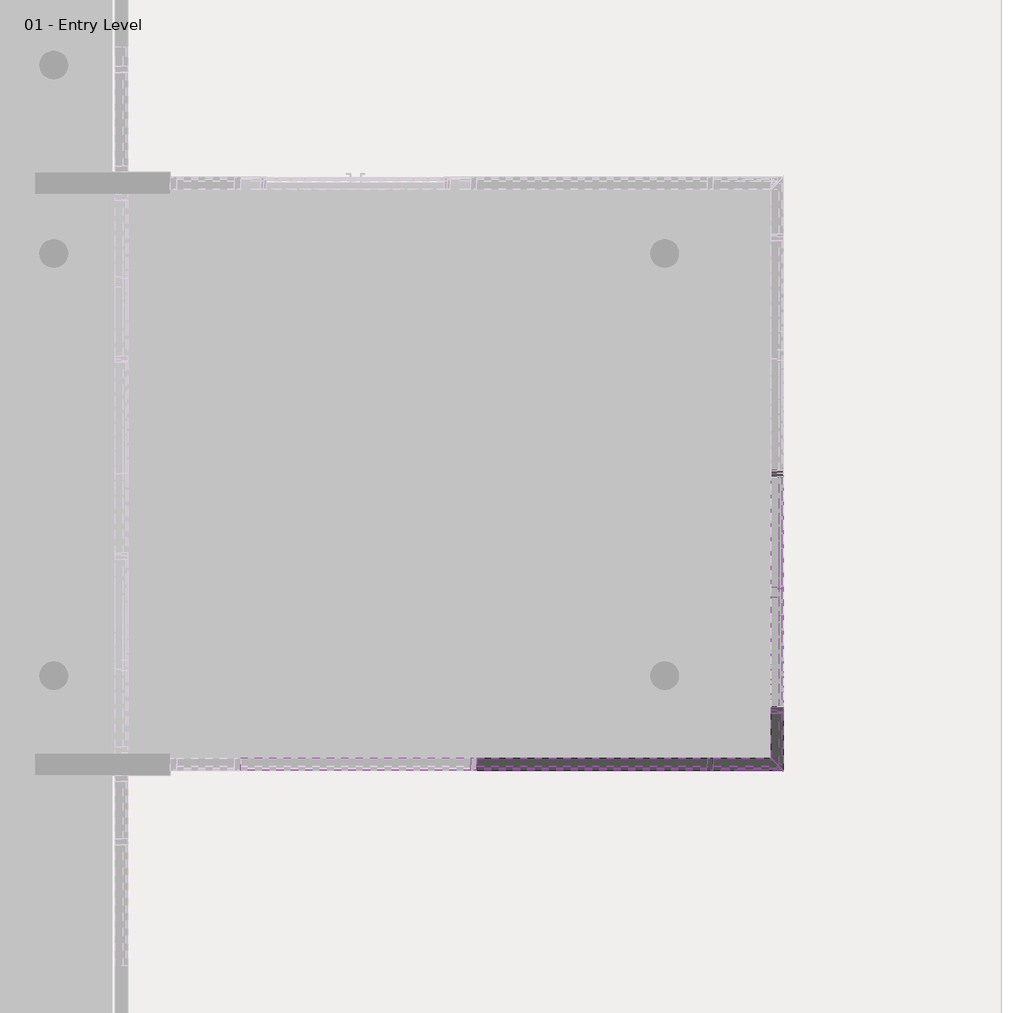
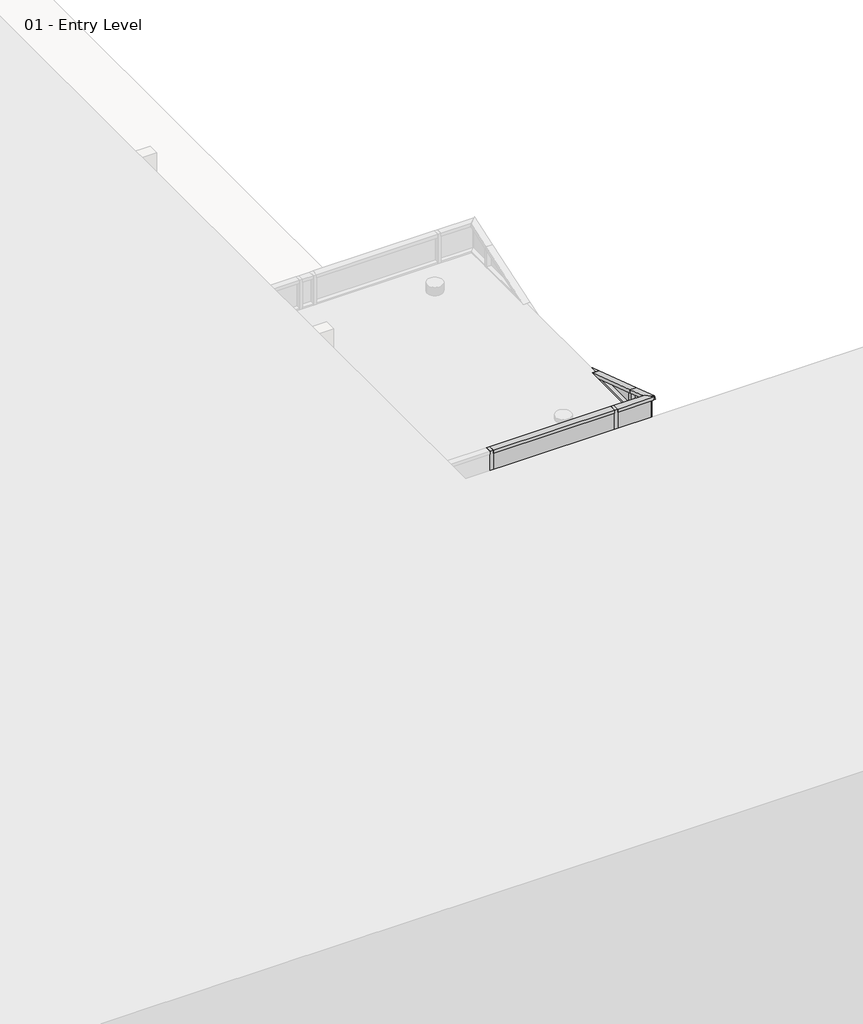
# One storey, part 14 of 35: 79 members, 48 plates.
"""IFC4 building model written with IfcOpenShell, lengths in millimetres."""

from ifc_helpers import new_model, si_unit, origin, place, context, project, spatial, transform, mapped, element, save
from components import member_6e77e263, member_b2bde9e6, member_89bfb2f9, member_9ea90918, member_7a68eee0, member_f22891ba, member_f7040936, member_7bb0cd3e, member_fce4fd76, member_659f2ef3, member_4067c595, member_db3c5f50, member_d798ba6b, system_panel_glazed_1068a10c, system_panel_glazed_a178916c, system_panel_glazed_ee7bb25c, system_panel_glazed_b5016a42, system_panel_glazed_300f1d59, system_panel_glazed_afefc162, system_panel_glazed_c252a688, system_panel_glazed_dff65941, system_panel_glazed_09644247

model = new_model("IFC4")

# Units and contexts
model_context = context("Model", 3, world=origin())
ifc_project = project(units=[si_unit("LENGTHUNIT", "METRE", prefix="MILLI")], contexts=[model_context])

# Site, building, storey
site = spatial("IfcSite", under=ifc_project)
building = spatial("IfcBuilding", under=site)
storey = spatial("IfcBuildingStorey", under=building, Name="01 - Entry Level", Elevation=0.0)

# Members
placement = place(None, origin())
member_shape = member_6e77e263(model_context)
element("IfcMember", 1, ObjectType="Rectangular Mullion : 2.5\" x 5\" rectangular", at=placement, inside=storey, context=model_context, shape_type="MappedRepresentation", body=[
    mapped(member_shape, transform((23947.0115197, 19548.4, 0.0), x_axis=(0.0, 1.0, 0.0), y_axis=(1.0, 0.0, 0.0), z_axis=(0.0, 0.0, -1.0))),
])
element("IfcMember", 2, ObjectType="Rectangular Mullion : 2.5\" x 5\" rectangular", at=placement, inside=storey, context=model_context, shape_type="MappedRepresentation", body=[
    mapped(member_shape, transform((23256.3615197, 16551.2, 0.0), x_axis=(1.0, 0.0, 0.0), y_axis=(0.0, -1.0, 0.0), z_axis=(0.0, 0.0, -1.0))),
])
element("IfcMember", 3, ObjectType="Rectangular Mullion : 2.5\" x 5\" rectangular", at=placement, inside=storey, context=model_context, shape_type="MappedRepresentation", body=[
    mapped(member_shape, transform((23947.0115197, 17110.0, 0.0), x_axis=(0.0, 1.0, 0.0), y_axis=(1.0, 0.0, 0.0), z_axis=(0.0, 0.0, -1.0))),
])
element("IfcMember", 4, ObjectType="Rectangular Mullion : 2.5\" x 5\" rectangular", at=placement, inside=storey, context=model_context, shape_type="MappedRepresentation", body=[
    mapped(member_shape, transform((23947.0115197, 19548.4, 609.6), x_axis=(0.0, 1.0, 0.0), y_axis=(1.0, 0.0, 0.0), z_axis=(0.0, 0.0, -1.0))),
])
element("IfcMember", 5, ObjectType="Rectangular Mullion : 2.5\" x 5\" rectangular", at=placement, inside=storey, context=model_context, shape_type="MappedRepresentation", body=[
    mapped(member_shape, transform((23947.0115197, 19548.4, 1219.2), x_axis=(0.0, 1.0, 0.0), y_axis=(1.0, 0.0, 0.0), z_axis=(0.0, 0.0, -1.0))),
])
element("IfcMember", 6, ObjectType="Rectangular Mullion : 2.5\" x 5\" rectangular", at=placement, inside=storey, context=model_context, shape_type="MappedRepresentation", body=[
    mapped(member_shape, transform((23256.3615197, 16551.2, 609.6), x_axis=(1.0, 0.0, 0.0), y_axis=(0.0, -1.0, 0.0), z_axis=(0.0, 0.0, -1.0))),
])
element("IfcMember", 7, ObjectType="Rectangular Mullion : 2.5\" x 5\" rectangular", at=placement, inside=storey, context=model_context, shape_type="MappedRepresentation", body=[
    mapped(member_shape, transform((23256.3615197, 16551.2, 1219.2), x_axis=(1.0, 0.0, 0.0), y_axis=(0.0, -1.0, 0.0), z_axis=(0.0, 0.0, -1.0))),
])
element("IfcMember", 8, ObjectType="Rectangular Mullion : 2.5\" x 5\" rectangular", at=placement, inside=storey, context=model_context, shape_type="MappedRepresentation", body=[
    mapped(member_shape, transform((23256.3615197, 16551.2, 1828.8), x_axis=(1.0, 0.0, 0.0), y_axis=(0.0, -1.0, 0.0), z_axis=(0.0, 0.0, -1.0))),
])
element("IfcMember", 9, ObjectType="Rectangular Mullion : 2.5\" x 5\" rectangular", at=placement, inside=storey, context=model_context, shape_type="MappedRepresentation", body=[
    mapped(member_shape, transform((23256.3615197, 16551.2, 2438.4), x_axis=(1.0, 0.0, 0.0), y_axis=(0.0, -1.0, 0.0), z_axis=(0.0, 0.0, -1.0))),
])
element("IfcMember", 10, ObjectType="Rectangular Mullion : 2.5\" x 5\" rectangular", at=placement, inside=storey, context=model_context, shape_type="MappedRepresentation", body=[
    mapped(member_shape, transform((23256.3615197, 16551.2, 3048.0), x_axis=(1.0, 0.0, 0.0), y_axis=(0.0, -1.0, 0.0), z_axis=(0.0, 0.0, -1.0))),
])
element("IfcMember", 11, ObjectType="Rectangular Mullion : 2.5\" x 5\" rectangular", at=placement, inside=storey, context=model_context, shape_type="MappedRepresentation", body=[
    mapped(member_shape, transform((23947.0115197, 17110.0, 609.6), x_axis=(0.0, 1.0, 0.0), y_axis=(1.0, 0.0, 0.0), z_axis=(0.0, 0.0, -1.0))),
])
element("IfcMember", 12, ObjectType="Rectangular Mullion : 2.5\" x 5\" rectangular", at=placement, inside=storey, context=model_context, shape_type="MappedRepresentation", body=[
    mapped(member_shape, transform((23947.0115197, 17110.0, 1219.2), x_axis=(0.0, 1.0, 0.0), y_axis=(1.0, 0.0, 0.0), z_axis=(0.0, 0.0, -1.0))),
])
element("IfcMember", 13, ObjectType="Rectangular Mullion : 2.5\" x 5\" rectangular", at=placement, inside=storey, context=model_context, shape_type="MappedRepresentation", body=[
    mapped(member_shape, transform((23947.0115197, 17110.0, 1828.8), x_axis=(0.0, 1.0, 0.0), y_axis=(1.0, 0.0, 0.0), z_axis=(0.0, 0.0, -1.0))),
])
element("IfcMember", 14, ObjectType="Rectangular Mullion : 2.5\" x 5\" rectangular", at=placement, inside=storey, context=model_context, shape_type="MappedRepresentation", body=[
    mapped(member_shape, transform((23947.0115197, 17110.0, 2438.4), x_axis=(0.0, 1.0, 0.0), y_axis=(1.0, 0.0, 0.0), z_axis=(0.0, 0.0, -1.0))),
])
element("IfcMember", 15, ObjectType="Rectangular Mullion : 2.5\" x 5\" rectangular", at=placement, inside=storey, context=model_context, shape_type="MappedRepresentation", body=[
    mapped(member_shape, transform((23947.0115197, 17110.0, 3048.0), x_axis=(0.0, 1.0, 0.0), y_axis=(1.0, 0.0, 0.0), z_axis=(0.0, 0.0, -1.0))),
])
element("IfcMember", 16, ObjectType="Rectangular Mullion : 2.5\" x 5\" rectangular", at=placement, inside=storey, context=model_context, shape_type="MappedRepresentation", body=[
    mapped(member_shape, transform((23947.0115197, 17110.0, 3657.6), x_axis=(0.0, 1.0, 0.0), y_axis=(1.0, 0.0, 0.0), z_axis=(0.0, 0.0, -1.0))),
])
element("IfcMember", 17, ObjectType="Rectangular Mullion : 2.5\" x 5\" rectangular", at=placement, inside=storey, context=model_context, shape_type="MappedRepresentation", body=[
    mapped(member_shape, transform((23947.0115197, 17110.0, 4267.2), x_axis=(0.0, 1.0, 0.0), y_axis=(1.0, 0.0, 0.0), z_axis=(0.0, 0.0, -1.0))),
])
element("IfcMember", 18, ObjectType="Rectangular Mullion : 2.5\" x 5\" rectangular", at=placement, inside=storey, context=model_context, shape_type="MappedRepresentation", body=[
    mapped(member_shape, transform((23947.0115197, 17110.0, 4876.8), x_axis=(0.0, 1.0, 0.0), y_axis=(1.0, 0.0, 0.0), z_axis=(0.0, 0.0, -1.0))),
])
element("IfcMember", 19, ObjectType="Rectangular Mullion : 2.5\" x 5\" rectangular", at=placement, inside=storey, context=model_context, shape_type="MappedRepresentation", body=[
    mapped(member_shape, transform((23947.0115197, 17110.0, 5486.4), x_axis=(0.0, 1.0, 0.0), y_axis=(1.0, 0.0, 0.0), z_axis=(0.0, 0.0, -1.0))),
])
element("IfcMember", 20, ObjectType="Rectangular Mullion : 2.5\" x 5\" rectangular", at=placement, inside=storey, context=model_context, shape_type="MappedRepresentation", body=[
    mapped(member_shape, transform((23947.0115197, 17110.0, 6096.0), x_axis=(0.0, 1.0, 0.0), y_axis=(1.0, 0.0, 0.0), z_axis=(0.0, 0.0, -1.0))),
])
element("IfcMember", 21, ObjectType="Rectangular Mullion : 2.5\" x 5\" rectangular", at=placement, inside=storey, context=model_context, shape_type="MappedRepresentation", body=[
    mapped(member_shape, transform((20817.9615197, 16551.2, 5486.4), x_axis=(1.0, 0.0, 0.0), y_axis=(0.0, -1.0, 0.0), z_axis=(0.0, 0.0, -1.0))),
])
element("IfcMember", 22, ObjectType="Rectangular Mullion : 2.5\" x 5\" rectangular", at=placement, inside=storey, context=model_context, shape_type="MappedRepresentation", body=[
    mapped(member_shape, transform((20817.9615197, 16551.2, 6096.0), x_axis=(1.0, 0.0, 0.0), y_axis=(0.0, -1.0, 0.0), z_axis=(0.0, 0.0, -1.0))),
])
element("IfcMember", 23, ObjectType="Rectangular Mullion : 2.5\" x 5\" rectangular", at=placement, inside=storey, context=model_context, shape_type="MappedRepresentation", body=[
    mapped(member_shape, transform((23256.3615197, 16551.2, 3657.6), x_axis=(1.0, 0.0, 0.0), y_axis=(0.0, -1.0, 0.0), z_axis=(0.0, 0.0, -1.0))),
])
element("IfcMember", 24, ObjectType="Rectangular Mullion : 2.5\" x 5\" rectangular", at=placement, inside=storey, context=model_context, shape_type="MappedRepresentation", body=[
    mapped(member_shape, transform((23256.3615197, 16551.2, 4267.2), x_axis=(1.0, 0.0, 0.0), y_axis=(0.0, -1.0, 0.0), z_axis=(0.0, 0.0, -1.0))),
])
element("IfcMember", 25, ObjectType="Rectangular Mullion : 2.5\" x 5\" rectangular", at=placement, inside=storey, context=model_context, shape_type="MappedRepresentation", body=[
    mapped(member_shape, transform((23256.3615197, 16551.2, 4876.8), x_axis=(1.0, 0.0, 0.0), y_axis=(0.0, -1.0, 0.0), z_axis=(0.0, 0.0, -1.0))),
])
element("IfcMember", 26, ObjectType="Rectangular Mullion : 2.5\" x 5\" rectangular", at=placement, inside=storey, context=model_context, shape_type="MappedRepresentation", body=[
    mapped(member_shape, transform((23256.3615197, 16551.2, 5486.4), x_axis=(1.0, 0.0, 0.0), y_axis=(0.0, -1.0, 0.0), z_axis=(0.0, 0.0, -1.0))),
])
element("IfcMember", 27, ObjectType="Rectangular Mullion : 2.5\" x 5\" rectangular", at=placement, inside=storey, context=model_context, shape_type="MappedRepresentation", body=[
    mapped(member_shape, transform((23256.3615197, 16551.2, 6096.0), x_axis=(1.0, 0.0, 0.0), y_axis=(0.0, -1.0, 0.0), z_axis=(0.0, 0.0, -1.0))),
])
member_2_shape = member_b2bde9e6(model_context)
element("IfcMember", 28, ObjectType="Rectangular Mullion : 2.5\" x 5\" rectangular", at=placement, inside=storey, context=model_context, shape_type="MappedRepresentation", body=[
    mapped(member_2_shape, transform((23947.0115197, 19580.15, 0.0), x_axis=(0.0, 0.0, -1.0), y_axis=(1.0, 0.0, 0.0), z_axis=(0.0, -1.0, 0.0))),
])
element("IfcMember", 29, ObjectType="Rectangular Mullion : 2.5\" x 5\" rectangular", at=placement, inside=storey, context=model_context, shape_type="MappedRepresentation", body=[
    mapped(member_2_shape, transform((23947.0115197, 17141.75, 0.0), x_axis=(0.0, 0.0, -1.0), y_axis=(1.0, 0.0, 0.0), z_axis=(0.0, -1.0, 0.0))),
])
member_3_shape = member_89bfb2f9(model_context)
element("IfcMember", 30, ObjectType="Rectangular Mullion : 2.5\" x 5\" rectangular", at=placement, inside=storey, context=model_context, shape_type="MappedRepresentation", body=[
    mapped(member_3_shape, transform((23224.6115197, 16551.2, 609.6), x_axis=(0.0, 0.0, 1.0), y_axis=(0.0, -1.0, 0.0), z_axis=(1.0, 0.0, 0.0))),
])
element("IfcMember", 31, ObjectType="Rectangular Mullion : 2.5\" x 5\" rectangular", at=placement, inside=storey, context=model_context, shape_type="MappedRepresentation", body=[
    mapped(member_3_shape, transform((23224.6115197, 16551.2, 1219.2), x_axis=(0.0, 0.0, 1.0), y_axis=(0.0, -1.0, 0.0), z_axis=(1.0, 0.0, 0.0))),
])
element("IfcMember", 32, ObjectType="Rectangular Mullion : 2.5\" x 5\" rectangular", at=placement, inside=storey, context=model_context, shape_type="MappedRepresentation", body=[
    mapped(member_3_shape, transform((23224.6115197, 16551.2, 1828.8), x_axis=(0.0, 0.0, 1.0), y_axis=(0.0, -1.0, 0.0), z_axis=(1.0, 0.0, 0.0))),
])
element("IfcMember", 33, ObjectType="Rectangular Mullion : 2.5\" x 5\" rectangular", at=placement, inside=storey, context=model_context, shape_type="MappedRepresentation", body=[
    mapped(member_3_shape, transform((23224.6115197, 16551.2, 2438.4), x_axis=(0.0, 0.0, 1.0), y_axis=(0.0, -1.0, 0.0), z_axis=(1.0, 0.0, 0.0))),
])
element("IfcMember", 34, ObjectType="Rectangular Mullion : 2.5\" x 5\" rectangular", at=placement, inside=storey, context=model_context, shape_type="MappedRepresentation", body=[
    mapped(member_3_shape, transform((23224.6115197, 16551.2, 3048.0), x_axis=(0.0, 0.0, 1.0), y_axis=(0.0, -1.0, 0.0), z_axis=(1.0, 0.0, 0.0))),
])
element("IfcMember", 35, ObjectType="Rectangular Mullion : 2.5\" x 5\" rectangular", at=placement, inside=storey, context=model_context, shape_type="MappedRepresentation", body=[
    mapped(member_3_shape, transform((20786.2115197, 16551.2, 3657.6), x_axis=(0.0, 0.0, 1.0), y_axis=(0.0, -1.0, 0.0), z_axis=(1.0, 0.0, 0.0))),
])
element("IfcMember", 36, ObjectType="Rectangular Mullion : 2.5\" x 5\" rectangular", at=placement, inside=storey, context=model_context, shape_type="MappedRepresentation", body=[
    mapped(member_3_shape, transform((23224.6115197, 16551.2, 3657.6), x_axis=(0.0, 0.0, 1.0), y_axis=(0.0, -1.0, 0.0), z_axis=(1.0, 0.0, 0.0))),
])
element("IfcMember", 37, ObjectType="Rectangular Mullion : 2.5\" x 5\" rectangular", at=placement, inside=storey, context=model_context, shape_type="MappedRepresentation", body=[
    mapped(member_3_shape, transform((20786.2115197, 16551.2, 4267.2), x_axis=(0.0, 0.0, 1.0), y_axis=(0.0, -1.0, 0.0), z_axis=(1.0, 0.0, 0.0))),
])
element("IfcMember", 38, ObjectType="Rectangular Mullion : 2.5\" x 5\" rectangular", at=placement, inside=storey, context=model_context, shape_type="MappedRepresentation", body=[
    mapped(member_3_shape, transform((23224.6115197, 16551.2, 4267.2), x_axis=(0.0, 0.0, 1.0), y_axis=(0.0, -1.0, 0.0), z_axis=(1.0, 0.0, 0.0))),
])
element("IfcMember", 39, ObjectType="Rectangular Mullion : 2.5\" x 5\" rectangular", at=placement, inside=storey, context=model_context, shape_type="MappedRepresentation", body=[
    mapped(member_3_shape, transform((20786.2115197, 16551.2, 4876.8), x_axis=(0.0, 0.0, 1.0), y_axis=(0.0, -1.0, 0.0), z_axis=(1.0, 0.0, 0.0))),
])
element("IfcMember", 40, ObjectType="Rectangular Mullion : 2.5\" x 5\" rectangular", at=placement, inside=storey, context=model_context, shape_type="MappedRepresentation", body=[
    mapped(member_3_shape, transform((23224.6115197, 16551.2, 4876.8), x_axis=(0.0, 0.0, 1.0), y_axis=(0.0, -1.0, 0.0), z_axis=(1.0, 0.0, 0.0))),
])
element("IfcMember", 41, ObjectType="Rectangular Mullion : 2.5\" x 5\" rectangular", at=placement, inside=storey, context=model_context, shape_type="MappedRepresentation", body=[
    mapped(member_3_shape, transform((20786.2115197, 16551.2, 5486.4), x_axis=(0.0, 0.0, 1.0), y_axis=(0.0, -1.0, 0.0), z_axis=(1.0, 0.0, 0.0))),
])
element("IfcMember", 42, ObjectType="Rectangular Mullion : 2.5\" x 5\" rectangular", at=placement, inside=storey, context=model_context, shape_type="MappedRepresentation", body=[
    mapped(member_3_shape, transform((23224.6115197, 16551.2, 5486.4), x_axis=(0.0, 0.0, 1.0), y_axis=(0.0, -1.0, 0.0), z_axis=(1.0, 0.0, 0.0))),
])
element("IfcMember", 43, ObjectType="Rectangular Mullion : 2.5\" x 5\" rectangular", at=placement, inside=storey, context=model_context, shape_type="MappedRepresentation", body=[
    mapped(member_3_shape, transform((20786.2115197, 16551.2, 6096.0), x_axis=(0.0, 0.0, 1.0), y_axis=(0.0, -1.0, 0.0), z_axis=(1.0, 0.0, 0.0))),
])
element("IfcMember", 44, ObjectType="Rectangular Mullion : 2.5\" x 5\" rectangular", at=placement, inside=storey, context=model_context, shape_type="MappedRepresentation", body=[
    mapped(member_3_shape, transform((23224.6115197, 16551.2, 6096.0), x_axis=(0.0, 0.0, 1.0), y_axis=(0.0, -1.0, 0.0), z_axis=(1.0, 0.0, 0.0))),
])
element("IfcMember", 45, ObjectType="Rectangular Mullion : 2.5\" x 5\" rectangular", at=placement, inside=storey, context=model_context, shape_type="MappedRepresentation", body=[
    mapped(member_3_shape, transform((20786.2115197, 16551.2, 6705.6), x_axis=(0.0, 0.0, 1.0), y_axis=(0.0, -1.0, 0.0), z_axis=(1.0, 0.0, 0.0))),
])
element("IfcMember", 46, ObjectType="Rectangular Mullion : 2.5\" x 5\" rectangular", at=placement, inside=storey, context=model_context, shape_type="MappedRepresentation", body=[
    mapped(member_3_shape, transform((23224.6115197, 16551.2, 6705.6), x_axis=(0.0, 0.0, 1.0), y_axis=(0.0, -1.0, 0.0), z_axis=(1.0, 0.0, 0.0))),
])
element("IfcMember", 47, ObjectType="Rectangular Mullion : 2.5\" x 5\" rectangular", at=placement, inside=storey, context=model_context, shape_type="MappedRepresentation", body=[
    mapped(member_2_shape, transform((23224.6115197, 16551.2, 7315.2), x_axis=(0.0, 0.0, 1.0), y_axis=(0.0, -1.0, 0.0), z_axis=(1.0, 0.0, 0.0))),
])
member_4_shape = member_9ea90918(model_context)
element("IfcMember", 48, ObjectType="Rectangular Mullion : 2.5\" x 5\" rectangular", at=placement, inside=storey, context=model_context, shape_type="MappedRepresentation", body=[
    mapped(member_4_shape, transform((23947.0115197, 16551.2, 0.0), x_axis=(0.0, 0.0, -1.0), y_axis=(1.0, 0.0, 0.0), z_axis=(0.0, -1.0, 0.0))),
])
member_5_shape = member_7a68eee0(model_context)
element("IfcMember", 49, ObjectType="Rectangular Mullion : 2.5\" x 5\" rectangular", at=placement, inside=storey, context=model_context, shape_type="MappedRepresentation", body=[
    mapped(member_5_shape, transform((23288.1115197, 16551.2, 0.0), x_axis=(0.0, 0.0, -1.0), y_axis=(0.0, -1.0, 0.0), z_axis=(-1.0, 0.0, 0.0))),
])
member_6_shape = member_f22891ba(model_context)
element("IfcMember", 50, ObjectType="Rectangular Mullion : 2.5\" x 5\" rectangular", at=placement, inside=storey, context=model_context, shape_type="MappedRepresentation", body=[
    mapped(member_6_shape, transform((23947.0115197, 17078.25, 609.6), x_axis=(0.0, 0.0, 1.0), y_axis=(1.0, 0.0, 0.0), z_axis=(0.0, 1.0, 0.0))),
])
element("IfcMember", 51, ObjectType="Rectangular Mullion : 2.5\" x 5\" rectangular", at=placement, inside=storey, context=model_context, shape_type="MappedRepresentation", body=[
    mapped(member_6_shape, transform((23947.0115197, 17078.25, 1219.2), x_axis=(0.0, 0.0, 1.0), y_axis=(1.0, 0.0, 0.0), z_axis=(0.0, 1.0, 0.0))),
])
element("IfcMember", 52, ObjectType="Rectangular Mullion : 2.5\" x 5\" rectangular", at=placement, inside=storey, context=model_context, shape_type="MappedRepresentation", body=[
    mapped(member_6_shape, transform((23947.0115197, 17078.25, 1828.8), x_axis=(0.0, 0.0, 1.0), y_axis=(1.0, 0.0, 0.0), z_axis=(0.0, 1.0, 0.0))),
])
element("IfcMember", 53, ObjectType="Rectangular Mullion : 2.5\" x 5\" rectangular", at=placement, inside=storey, context=model_context, shape_type="MappedRepresentation", body=[
    mapped(member_6_shape, transform((23947.0115197, 17078.25, 2438.4), x_axis=(0.0, 0.0, 1.0), y_axis=(1.0, 0.0, 0.0), z_axis=(0.0, 1.0, 0.0))),
])
element("IfcMember", 54, ObjectType="Rectangular Mullion : 2.5\" x 5\" rectangular", at=placement, inside=storey, context=model_context, shape_type="MappedRepresentation", body=[
    mapped(member_6_shape, transform((23947.0115197, 17078.25, 3048.0), x_axis=(0.0, 0.0, 1.0), y_axis=(1.0, 0.0, 0.0), z_axis=(0.0, 1.0, 0.0))),
])
element("IfcMember", 55, ObjectType="Rectangular Mullion : 2.5\" x 5\" rectangular", at=placement, inside=storey, context=model_context, shape_type="MappedRepresentation", body=[
    mapped(member_6_shape, transform((23947.0115197, 17078.25, 3657.6), x_axis=(0.0, 0.0, 1.0), y_axis=(1.0, 0.0, 0.0), z_axis=(0.0, 1.0, 0.0))),
])
element("IfcMember", 56, ObjectType="Rectangular Mullion : 2.5\" x 5\" rectangular", at=placement, inside=storey, context=model_context, shape_type="MappedRepresentation", body=[
    mapped(member_6_shape, transform((23947.0115197, 17078.25, 4267.2), x_axis=(0.0, 0.0, 1.0), y_axis=(1.0, 0.0, 0.0), z_axis=(0.0, 1.0, 0.0))),
])
element("IfcMember", 57, ObjectType="Rectangular Mullion : 2.5\" x 5\" rectangular", at=placement, inside=storey, context=model_context, shape_type="MappedRepresentation", body=[
    mapped(member_6_shape, transform((23947.0115197, 17078.25, 4876.8), x_axis=(0.0, 0.0, 1.0), y_axis=(1.0, 0.0, 0.0), z_axis=(0.0, 1.0, 0.0))),
])
element("IfcMember", 58, ObjectType="Rectangular Mullion : 2.5\" x 5\" rectangular", at=placement, inside=storey, context=model_context, shape_type="MappedRepresentation", body=[
    mapped(member_6_shape, transform((23947.0115197, 17078.25, 5486.4), x_axis=(0.0, 0.0, 1.0), y_axis=(1.0, 0.0, 0.0), z_axis=(0.0, 1.0, 0.0))),
])
element("IfcMember", 59, ObjectType="Rectangular Mullion : 2.5\" x 5\" rectangular", at=placement, inside=storey, context=model_context, shape_type="MappedRepresentation", body=[
    mapped(member_6_shape, transform((23947.0115197, 17078.25, 6096.0), x_axis=(0.0, 0.0, 1.0), y_axis=(1.0, 0.0, 0.0), z_axis=(0.0, 1.0, 0.0))),
])
element("IfcMember", 60, ObjectType="Rectangular Mullion : 2.5\" x 5\" rectangular", at=placement, inside=storey, context=model_context, shape_type="MappedRepresentation", body=[
    mapped(member_6_shape, transform((23947.0115197, 17078.25, 6705.6), x_axis=(0.0, 0.0, 1.0), y_axis=(1.0, 0.0, 0.0), z_axis=(0.0, 1.0, 0.0))),
])
member_7_shape = member_f7040936(model_context)
element("IfcMember", 61, ObjectType="Rectangular Mullion : 2.5\" x 5\" rectangular", at=placement, inside=storey, context=model_context, shape_type="MappedRepresentation", body=[
    mapped(member_7_shape, transform((23947.0115197, 16551.2, 609.6), x_axis=(0.0, 0.0, 1.0), y_axis=(0.0, -1.0, 0.0), z_axis=(1.0, 0.0, 0.0))),
])
element("IfcMember", 62, ObjectType="Rectangular Mullion : 2.5\" x 5\" rectangular", at=placement, inside=storey, context=model_context, shape_type="MappedRepresentation", body=[
    mapped(member_7_shape, transform((23947.0115197, 16551.2, 1219.2), x_axis=(0.0, 0.0, 1.0), y_axis=(0.0, -1.0, 0.0), z_axis=(1.0, 0.0, 0.0))),
])
element("IfcMember", 63, ObjectType="Rectangular Mullion : 2.5\" x 5\" rectangular", at=placement, inside=storey, context=model_context, shape_type="MappedRepresentation", body=[
    mapped(member_7_shape, transform((23947.0115197, 16551.2, 1828.8), x_axis=(0.0, 0.0, 1.0), y_axis=(0.0, -1.0, 0.0), z_axis=(1.0, 0.0, 0.0))),
])
element("IfcMember", 64, ObjectType="Rectangular Mullion : 2.5\" x 5\" rectangular", at=placement, inside=storey, context=model_context, shape_type="MappedRepresentation", body=[
    mapped(member_7_shape, transform((23947.0115197, 16551.2, 2438.4), x_axis=(0.0, 0.0, 1.0), y_axis=(0.0, -1.0, 0.0), z_axis=(1.0, 0.0, 0.0))),
])
element("IfcMember", 65, ObjectType="Rectangular Mullion : 2.5\" x 5\" rectangular", at=placement, inside=storey, context=model_context, shape_type="MappedRepresentation", body=[
    mapped(member_7_shape, transform((23947.0115197, 16551.2, 3048.0), x_axis=(0.0, 0.0, 1.0), y_axis=(0.0, -1.0, 0.0), z_axis=(1.0, 0.0, 0.0))),
])
element("IfcMember", 66, ObjectType="Rectangular Mullion : 2.5\" x 5\" rectangular", at=placement, inside=storey, context=model_context, shape_type="MappedRepresentation", body=[
    mapped(member_7_shape, transform((23947.0115197, 16551.2, 3657.6), x_axis=(0.0, 0.0, 1.0), y_axis=(0.0, -1.0, 0.0), z_axis=(1.0, 0.0, 0.0))),
])
element("IfcMember", 67, ObjectType="Rectangular Mullion : 2.5\" x 5\" rectangular", at=placement, inside=storey, context=model_context, shape_type="MappedRepresentation", body=[
    mapped(member_7_shape, transform((23947.0115197, 16551.2, 4267.2), x_axis=(0.0, 0.0, 1.0), y_axis=(0.0, -1.0, 0.0), z_axis=(1.0, 0.0, 0.0))),
])
element("IfcMember", 68, ObjectType="Rectangular Mullion : 2.5\" x 5\" rectangular", at=placement, inside=storey, context=model_context, shape_type="MappedRepresentation", body=[
    mapped(member_7_shape, transform((23947.0115197, 16551.2, 4876.8), x_axis=(0.0, 0.0, 1.0), y_axis=(0.0, -1.0, 0.0), z_axis=(1.0, 0.0, 0.0))),
])
element("IfcMember", 69, ObjectType="Rectangular Mullion : 2.5\" x 5\" rectangular", at=placement, inside=storey, context=model_context, shape_type="MappedRepresentation", body=[
    mapped(member_7_shape, transform((23947.0115197, 16551.2, 5486.4), x_axis=(0.0, 0.0, 1.0), y_axis=(0.0, -1.0, 0.0), z_axis=(1.0, 0.0, 0.0))),
])
element("IfcMember", 70, ObjectType="Rectangular Mullion : 2.5\" x 5\" rectangular", at=placement, inside=storey, context=model_context, shape_type="MappedRepresentation", body=[
    mapped(member_7_shape, transform((23947.0115197, 16551.2, 6096.0), x_axis=(0.0, 0.0, 1.0), y_axis=(0.0, -1.0, 0.0), z_axis=(1.0, 0.0, 0.0))),
])
element("IfcMember", 71, ObjectType="Rectangular Mullion : 2.5\" x 5\" rectangular", at=placement, inside=storey, context=model_context, shape_type="MappedRepresentation", body=[
    mapped(member_7_shape, transform((23947.0115197, 16551.2, 6705.6), x_axis=(0.0, 0.0, 1.0), y_axis=(0.0, -1.0, 0.0), z_axis=(1.0, 0.0, 0.0))),
])
member_8_shape = member_7bb0cd3e(model_context)
element("IfcMember", 72, ObjectType="Rectangular Mullion : 2.5\" x 5\" rectangular", at=placement, inside=storey, context=model_context, shape_type="MappedRepresentation", body=[
    mapped(member_8_shape, transform((23947.0115197, 19548.4, 6316.1333333), x_axis=(0.0, 0.316227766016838, 0.9486832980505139), y_axis=(1.0, 0.0, 0.0), z_axis=(0.0, 0.9486832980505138, -0.31622776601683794))),
])
member_9_shape = member_fce4fd76(model_context)
element("IfcMember", 73, ObjectType="Rectangular Mullion : 2.5\" x 5\" rectangular", at=placement, inside=storey, context=model_context, shape_type="MappedRepresentation", body=[
    mapped(member_9_shape, transform((23947.0115197, 18380.0, 6705.6), x_axis=(0.0, 0.3162277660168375, 0.948683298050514), y_axis=(1.0, 0.0, 0.0), z_axis=(0.0, 0.9486832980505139, -0.31622776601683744))),
])
member_10_shape = member_659f2ef3(model_context)
element("IfcMember", 74, ObjectType="Rectangular Mullion : 2.5\" x 5\" rectangular", at=placement, inside=storey, context=model_context, shape_type="MappedRepresentation", body=[
    mapped(member_10_shape, transform((23947.0115197, 18380.0, 6705.6), x_axis=(0.0, 0.0, 1.0), y_axis=(1.0, 0.0, 0.0), z_axis=(0.0, 1.0, 0.0))),
])
member_11_shape = member_4067c595(model_context)
element("IfcMember", 75, ObjectType="Rectangular Mullion : 2.5\" x 5\" rectangular", at=placement, inside=storey, context=model_context, shape_type="MappedRepresentation", body=[
    mapped(member_11_shape, transform((23947.0115197, 17110.0, 6705.6), x_axis=(0.0, 1.0, 0.0), y_axis=(1.0, 0.0, 0.0), z_axis=(0.0, 0.0, -1.0))),
])
element("IfcMember", 76, ObjectType="Rectangular Mullion : 2.5\" x 5\" rectangular", at=placement, inside=storey, context=model_context, shape_type="MappedRepresentation", body=[
    mapped(member_shape, transform((20817.9615197, 16551.2, 6705.6), x_axis=(1.0, 0.0, 0.0), y_axis=(0.0, -1.0, 0.0), z_axis=(0.0, 0.0, -1.0))),
])
element("IfcMember", 77, ObjectType="Rectangular Mullion : 2.5\" x 5\" rectangular", at=placement, inside=storey, context=model_context, shape_type="MappedRepresentation", body=[
    mapped(member_shape, transform((23256.3615197, 16551.2, 6705.6), x_axis=(1.0, 0.0, 0.0), y_axis=(0.0, -1.0, 0.0), z_axis=(0.0, 0.0, -1.0))),
])
member_12_shape = member_db3c5f50(model_context)
element("IfcMember", 78, ObjectType="Rectangular Mullion : 2.5\" x 5\" rectangular", at=placement, inside=storey, context=model_context, shape_type="MappedRepresentation", body=[
    mapped(member_12_shape, transform((23947.0115197, 17110.0, 7128.9333333), x_axis=(0.0, 0.3162277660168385, 0.9486832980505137), y_axis=(1.0, 0.0, 0.0), z_axis=(0.0, 0.9486832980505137, -0.3162277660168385))),
])
member_13_shape = member_d798ba6b(model_context)
element("IfcMember", 79, ObjectType="Rectangular Mullion : 2.5\" x 5\" rectangular", at=placement, inside=storey, context=model_context, shape_type="MappedRepresentation", body=[
    mapped(member_13_shape, transform((23947.0115197, 16551.2, 7315.2), x_axis=(0.0, 0.0, 1.0), y_axis=(0.0, -1.0, 0.0), z_axis=(1.0, 0.0, 0.0))),
])

# Plates
system_panel_glazed_shape = system_panel_glazed_1068a10c(model_context)
element("IfcPlate", 80, ObjectType="System Panel : Glazed", at=placement, inside=storey, context=model_context, shape_type="MappedRepresentation", body=[
    mapped(system_panel_glazed_shape, transform((22037.1615197, 16551.2, 63.5), x_axis=(1.0, 0.0, 0.0), y_axis=(0.0, 1.0, 0.0), z_axis=(0.0, 0.0, 1.0))),
])
element("IfcPlate", 81, ObjectType="System Panel : Glazed", at=placement, inside=storey, context=model_context, shape_type="MappedRepresentation", body=[
    mapped(system_panel_glazed_shape, transform((23947.0115197, 18329.2, 63.5), x_axis=(0.0, 1.0, 0.0), y_axis=(-1.0, 0.0, 0.0), z_axis=(0.0, 0.0, 1.0))),
])
element("IfcPlate", 82, ObjectType="System Panel : Glazed", at=placement, inside=storey, context=model_context, shape_type="MappedRepresentation", body=[
    mapped(system_panel_glazed_shape, transform((22037.1615197, 16551.2, 6737.35), x_axis=(1.0, 0.0, 0.0), y_axis=(0.0, 1.0, 0.0), z_axis=(0.0, 0.0, 1.0))),
])
system_panel_glazed_2_shape = system_panel_glazed_a178916c(model_context)
element("IfcPlate", 83, ObjectType="System Panel : Glazed", at=placement, inside=storey, context=model_context, shape_type="MappedRepresentation", body=[
    mapped(system_panel_glazed_2_shape, transform((22037.1615197, 16551.2, 641.35), x_axis=(1.0, 0.0, 0.0), y_axis=(0.0, 1.0, 0.0), z_axis=(0.0, 0.0, 1.0))),
])
element("IfcPlate", 84, ObjectType="System Panel : Glazed", at=placement, inside=storey, context=model_context, shape_type="MappedRepresentation", body=[
    mapped(system_panel_glazed_2_shape, transform((22037.1615197, 16551.2, 1250.95), x_axis=(1.0, 0.0, 0.0), y_axis=(0.0, 1.0, 0.0), z_axis=(0.0, 0.0, 1.0))),
])
element("IfcPlate", 85, ObjectType="System Panel : Glazed", at=placement, inside=storey, context=model_context, shape_type="MappedRepresentation", body=[
    mapped(system_panel_glazed_2_shape, transform((22037.1615197, 16551.2, 1860.55), x_axis=(1.0, 0.0, 0.0), y_axis=(0.0, 1.0, 0.0), z_axis=(0.0, 0.0, 1.0))),
])
element("IfcPlate", 86, ObjectType="System Panel : Glazed", at=placement, inside=storey, context=model_context, shape_type="MappedRepresentation", body=[
    mapped(system_panel_glazed_2_shape, transform((22037.1615197, 16551.2, 2470.15), x_axis=(1.0, 0.0, 0.0), y_axis=(0.0, 1.0, 0.0), z_axis=(0.0, 0.0, 1.0))),
])
element("IfcPlate", 87, ObjectType="System Panel : Glazed", at=placement, inside=storey, context=model_context, shape_type="MappedRepresentation", body=[
    mapped(system_panel_glazed_2_shape, transform((22037.1615197, 16551.2, 3079.75), x_axis=(1.0, 0.0, 0.0), y_axis=(0.0, 1.0, 0.0), z_axis=(0.0, 0.0, 1.0))),
])
element("IfcPlate", 88, ObjectType="System Panel : Glazed", at=placement, inside=storey, context=model_context, shape_type="MappedRepresentation", body=[
    mapped(system_panel_glazed_2_shape, transform((23947.0115197, 18329.2, 641.35), x_axis=(0.0, 1.0, 0.0), y_axis=(-1.0, 0.0, 0.0), z_axis=(0.0, 0.0, 1.0))),
])
element("IfcPlate", 89, ObjectType="System Panel : Glazed", at=placement, inside=storey, context=model_context, shape_type="MappedRepresentation", body=[
    mapped(system_panel_glazed_2_shape, transform((23947.0115197, 18329.2, 1250.95), x_axis=(0.0, 1.0, 0.0), y_axis=(-1.0, 0.0, 0.0), z_axis=(0.0, 0.0, 1.0))),
])
element("IfcPlate", 90, ObjectType="System Panel : Glazed", at=placement, inside=storey, context=model_context, shape_type="MappedRepresentation", body=[
    mapped(system_panel_glazed_2_shape, transform((23947.0115197, 18329.2, 1860.55), x_axis=(0.0, 1.0, 0.0), y_axis=(-1.0, 0.0, 0.0), z_axis=(0.0, 0.0, 1.0))),
])
element("IfcPlate", 91, ObjectType="System Panel : Glazed", at=placement, inside=storey, context=model_context, shape_type="MappedRepresentation", body=[
    mapped(system_panel_glazed_2_shape, transform((23947.0115197, 18329.2, 2470.15), x_axis=(0.0, 1.0, 0.0), y_axis=(-1.0, 0.0, 0.0), z_axis=(0.0, 0.0, 1.0))),
])
element("IfcPlate", 92, ObjectType="System Panel : Glazed", at=placement, inside=storey, context=model_context, shape_type="MappedRepresentation", body=[
    mapped(system_panel_glazed_2_shape, transform((23947.0115197, 18329.2, 3079.75), x_axis=(0.0, 1.0, 0.0), y_axis=(-1.0, 0.0, 0.0), z_axis=(0.0, 0.0, 1.0))),
])
element("IfcPlate", 93, ObjectType="System Panel : Glazed", at=placement, inside=storey, context=model_context, shape_type="MappedRepresentation", body=[
    mapped(system_panel_glazed_2_shape, transform((23947.0115197, 18329.2, 3689.35), x_axis=(0.0, 1.0, 0.0), y_axis=(-1.0, 0.0, 0.0), z_axis=(0.0, 0.0, 1.0))),
])
element("IfcPlate", 94, ObjectType="System Panel : Glazed", at=placement, inside=storey, context=model_context, shape_type="MappedRepresentation", body=[
    mapped(system_panel_glazed_2_shape, transform((23947.0115197, 18329.2, 4298.95), x_axis=(0.0, 1.0, 0.0), y_axis=(-1.0, 0.0, 0.0), z_axis=(0.0, 0.0, 1.0))),
])
element("IfcPlate", 95, ObjectType="System Panel : Glazed", at=placement, inside=storey, context=model_context, shape_type="MappedRepresentation", body=[
    mapped(system_panel_glazed_2_shape, transform((23947.0115197, 18329.2, 4908.55), x_axis=(0.0, 1.0, 0.0), y_axis=(-1.0, 0.0, 0.0), z_axis=(0.0, 0.0, 1.0))),
])
element("IfcPlate", 96, ObjectType="System Panel : Glazed", at=placement, inside=storey, context=model_context, shape_type="MappedRepresentation", body=[
    mapped(system_panel_glazed_2_shape, transform((23947.0115197, 18329.2, 5518.15), x_axis=(0.0, 1.0, 0.0), y_axis=(-1.0, 0.0, 0.0), z_axis=(0.0, 0.0, 1.0))),
])
element("IfcPlate", 97, ObjectType="System Panel : Glazed", at=placement, inside=storey, context=model_context, shape_type="MappedRepresentation", body=[
    mapped(system_panel_glazed_2_shape, transform((22037.1615197, 16551.2, 3689.35), x_axis=(1.0, 0.0, 0.0), y_axis=(0.0, 1.0, 0.0), z_axis=(0.0, 0.0, 1.0))),
])
element("IfcPlate", 98, ObjectType="System Panel : Glazed", at=placement, inside=storey, context=model_context, shape_type="MappedRepresentation", body=[
    mapped(system_panel_glazed_2_shape, transform((22037.1615197, 16551.2, 4298.95), x_axis=(1.0, 0.0, 0.0), y_axis=(0.0, 1.0, 0.0), z_axis=(0.0, 0.0, 1.0))),
])
element("IfcPlate", 99, ObjectType="System Panel : Glazed", at=placement, inside=storey, context=model_context, shape_type="MappedRepresentation", body=[
    mapped(system_panel_glazed_2_shape, transform((22037.1615197, 16551.2, 4908.55), x_axis=(1.0, 0.0, 0.0), y_axis=(0.0, 1.0, 0.0), z_axis=(0.0, 0.0, 1.0))),
])
element("IfcPlate", 100, ObjectType="System Panel : Glazed", at=placement, inside=storey, context=model_context, shape_type="MappedRepresentation", body=[
    mapped(system_panel_glazed_2_shape, transform((22037.1615197, 16551.2, 5518.15), x_axis=(1.0, 0.0, 0.0), y_axis=(0.0, 1.0, 0.0), z_axis=(0.0, 0.0, 1.0))),
])
element("IfcPlate", 101, ObjectType="System Panel : Glazed", at=placement, inside=storey, context=model_context, shape_type="MappedRepresentation", body=[
    mapped(system_panel_glazed_2_shape, transform((22037.1615197, 16551.2, 6127.75), x_axis=(1.0, 0.0, 0.0), y_axis=(0.0, 1.0, 0.0), z_axis=(0.0, 0.0, 1.0))),
])
system_panel_glazed_3_shape = system_panel_glazed_ee7bb25c(model_context)
element("IfcPlate", 102, ObjectType="System Panel : Glazed", at=placement, inside=storey, context=model_context, shape_type="MappedRepresentation", body=[
    mapped(system_panel_glazed_3_shape, transform((23617.5615197, 16551.2, 63.5), x_axis=(1.0, 0.0, 0.0), y_axis=(0.0, 1.0, 0.0), z_axis=(0.0, 0.0, 1.0))),
])
element("IfcPlate", 103, ObjectType="System Panel : Glazed", at=placement, inside=storey, context=model_context, shape_type="MappedRepresentation", body=[
    mapped(system_panel_glazed_3_shape, transform((23617.5615197, 16551.2, 6737.35), x_axis=(1.0, 0.0, 0.0), y_axis=(0.0, 1.0, 0.0), z_axis=(0.0, 0.0, 1.0))),
])
system_panel_glazed_4_shape = system_panel_glazed_b5016a42(model_context)
element("IfcPlate", 104, ObjectType="System Panel : Glazed", at=placement, inside=storey, context=model_context, shape_type="MappedRepresentation", body=[
    mapped(system_panel_glazed_4_shape, transform((23617.5615197, 16551.2, 641.35), x_axis=(1.0, 0.0, 0.0), y_axis=(0.0, 1.0, 0.0), z_axis=(0.0, 0.0, 1.0))),
])
element("IfcPlate", 105, ObjectType="System Panel : Glazed", at=placement, inside=storey, context=model_context, shape_type="MappedRepresentation", body=[
    mapped(system_panel_glazed_4_shape, transform((23617.5615197, 16551.2, 1250.95), x_axis=(1.0, 0.0, 0.0), y_axis=(0.0, 1.0, 0.0), z_axis=(0.0, 0.0, 1.0))),
])
element("IfcPlate", 106, ObjectType="System Panel : Glazed", at=placement, inside=storey, context=model_context, shape_type="MappedRepresentation", body=[
    mapped(system_panel_glazed_4_shape, transform((23617.5615197, 16551.2, 1860.55), x_axis=(1.0, 0.0, 0.0), y_axis=(0.0, 1.0, 0.0), z_axis=(0.0, 0.0, 1.0))),
])
element("IfcPlate", 107, ObjectType="System Panel : Glazed", at=placement, inside=storey, context=model_context, shape_type="MappedRepresentation", body=[
    mapped(system_panel_glazed_4_shape, transform((23617.5615197, 16551.2, 2470.15), x_axis=(1.0, 0.0, 0.0), y_axis=(0.0, 1.0, 0.0), z_axis=(0.0, 0.0, 1.0))),
])
element("IfcPlate", 108, ObjectType="System Panel : Glazed", at=placement, inside=storey, context=model_context, shape_type="MappedRepresentation", body=[
    mapped(system_panel_glazed_4_shape, transform((23617.5615197, 16551.2, 3079.75), x_axis=(1.0, 0.0, 0.0), y_axis=(0.0, 1.0, 0.0), z_axis=(0.0, 0.0, 1.0))),
])
element("IfcPlate", 109, ObjectType="System Panel : Glazed", at=placement, inside=storey, context=model_context, shape_type="MappedRepresentation", body=[
    mapped(system_panel_glazed_4_shape, transform((23617.5615197, 16551.2, 3689.35), x_axis=(1.0, 0.0, 0.0), y_axis=(0.0, 1.0, 0.0), z_axis=(0.0, 0.0, 1.0))),
])
element("IfcPlate", 110, ObjectType="System Panel : Glazed", at=placement, inside=storey, context=model_context, shape_type="MappedRepresentation", body=[
    mapped(system_panel_glazed_4_shape, transform((23617.5615197, 16551.2, 4298.95), x_axis=(1.0, 0.0, 0.0), y_axis=(0.0, 1.0, 0.0), z_axis=(0.0, 0.0, 1.0))),
])
element("IfcPlate", 111, ObjectType="System Panel : Glazed", at=placement, inside=storey, context=model_context, shape_type="MappedRepresentation", body=[
    mapped(system_panel_glazed_4_shape, transform((23617.5615197, 16551.2, 4908.55), x_axis=(1.0, 0.0, 0.0), y_axis=(0.0, 1.0, 0.0), z_axis=(0.0, 0.0, 1.0))),
])
element("IfcPlate", 112, ObjectType="System Panel : Glazed", at=placement, inside=storey, context=model_context, shape_type="MappedRepresentation", body=[
    mapped(system_panel_glazed_4_shape, transform((23617.5615197, 16551.2, 5518.15), x_axis=(1.0, 0.0, 0.0), y_axis=(0.0, 1.0, 0.0), z_axis=(0.0, 0.0, 1.0))),
])
element("IfcPlate", 113, ObjectType="System Panel : Glazed", at=placement, inside=storey, context=model_context, shape_type="MappedRepresentation", body=[
    mapped(system_panel_glazed_4_shape, transform((23617.5615197, 16551.2, 6127.75), x_axis=(1.0, 0.0, 0.0), y_axis=(0.0, 1.0, 0.0), z_axis=(0.0, 0.0, 1.0))),
])
system_panel_glazed_5_shape = system_panel_glazed_300f1d59(model_context)
element("IfcPlate", 114, ObjectType="System Panel : Glazed", at=placement, inside=storey, context=model_context, shape_type="MappedRepresentation", body=[
    mapped(system_panel_glazed_5_shape, transform((23947.0115197, 16814.725, 63.5), x_axis=(0.0, 1.0, 0.0), y_axis=(-1.0, 0.0, 0.0), z_axis=(0.0, 0.0, 1.0))),
])
system_panel_glazed_6_shape = system_panel_glazed_afefc162(model_context)
element("IfcPlate", 115, ObjectType="System Panel : Glazed", at=placement, inside=storey, context=model_context, shape_type="MappedRepresentation", body=[
    mapped(system_panel_glazed_6_shape, transform((23947.0115197, 16814.725, 641.35), x_axis=(0.0, 1.0, 0.0), y_axis=(-1.0, 0.0, 0.0), z_axis=(0.0, 0.0, 1.0))),
])
element("IfcPlate", 116, ObjectType="System Panel : Glazed", at=placement, inside=storey, context=model_context, shape_type="MappedRepresentation", body=[
    mapped(system_panel_glazed_6_shape, transform((23947.0115197, 16814.725, 1250.95), x_axis=(0.0, 1.0, 0.0), y_axis=(-1.0, 0.0, 0.0), z_axis=(0.0, 0.0, 1.0))),
])
element("IfcPlate", 117, ObjectType="System Panel : Glazed", at=placement, inside=storey, context=model_context, shape_type="MappedRepresentation", body=[
    mapped(system_panel_glazed_6_shape, transform((23947.0115197, 16814.725, 1860.55), x_axis=(0.0, 1.0, 0.0), y_axis=(-1.0, 0.0, 0.0), z_axis=(0.0, 0.0, 1.0))),
])
element("IfcPlate", 118, ObjectType="System Panel : Glazed", at=placement, inside=storey, context=model_context, shape_type="MappedRepresentation", body=[
    mapped(system_panel_glazed_6_shape, transform((23947.0115197, 16814.725, 2470.15), x_axis=(0.0, 1.0, 0.0), y_axis=(-1.0, 0.0, 0.0), z_axis=(0.0, 0.0, 1.0))),
])
element("IfcPlate", 119, ObjectType="System Panel : Glazed", at=placement, inside=storey, context=model_context, shape_type="MappedRepresentation", body=[
    mapped(system_panel_glazed_6_shape, transform((23947.0115197, 16814.725, 3079.75), x_axis=(0.0, 1.0, 0.0), y_axis=(-1.0, 0.0, 0.0), z_axis=(0.0, 0.0, 1.0))),
])
element("IfcPlate", 120, ObjectType="System Panel : Glazed", at=placement, inside=storey, context=model_context, shape_type="MappedRepresentation", body=[
    mapped(system_panel_glazed_6_shape, transform((23947.0115197, 16814.725, 3689.35), x_axis=(0.0, 1.0, 0.0), y_axis=(-1.0, 0.0, 0.0), z_axis=(0.0, 0.0, 1.0))),
])
element("IfcPlate", 121, ObjectType="System Panel : Glazed", at=placement, inside=storey, context=model_context, shape_type="MappedRepresentation", body=[
    mapped(system_panel_glazed_6_shape, transform((23947.0115197, 16814.725, 4298.95), x_axis=(0.0, 1.0, 0.0), y_axis=(-1.0, 0.0, 0.0), z_axis=(0.0, 0.0, 1.0))),
])
element("IfcPlate", 122, ObjectType="System Panel : Glazed", at=placement, inside=storey, context=model_context, shape_type="MappedRepresentation", body=[
    mapped(system_panel_glazed_6_shape, transform((23947.0115197, 16814.725, 4908.55), x_axis=(0.0, 1.0, 0.0), y_axis=(-1.0, 0.0, 0.0), z_axis=(0.0, 0.0, 1.0))),
])
element("IfcPlate", 123, ObjectType="System Panel : Glazed", at=placement, inside=storey, context=model_context, shape_type="MappedRepresentation", body=[
    mapped(system_panel_glazed_6_shape, transform((23947.0115197, 16814.725, 5518.15), x_axis=(0.0, 1.0, 0.0), y_axis=(-1.0, 0.0, 0.0), z_axis=(0.0, 0.0, 1.0))),
])
element("IfcPlate", 124, ObjectType="System Panel : Glazed", at=placement, inside=storey, context=model_context, shape_type="MappedRepresentation", body=[
    mapped(system_panel_glazed_6_shape, transform((23947.0115197, 16814.725, 6127.75), x_axis=(0.0, 1.0, 0.0), y_axis=(-1.0, 0.0, 0.0), z_axis=(0.0, 0.0, 1.0))),
])
system_panel_glazed_7_shape = system_panel_glazed_c252a688(model_context)
element("IfcPlate", 125, ObjectType="System Panel : Glazed", at=placement, inside=storey, context=model_context, shape_type="MappedRepresentation", body=[
    mapped(system_panel_glazed_7_shape, transform((23947.0115197, 16814.725, 6737.35), x_axis=(0.0, 1.0, 0.0), y_axis=(-1.0, 0.0, 0.0), z_axis=(0.0, 0.0, 1.0))),
])
system_panel_glazed_8_shape = system_panel_glazed_dff65941(model_context)
element("IfcPlate", 126, ObjectType="System Panel : Glazed", at=placement, inside=storey, context=model_context, shape_type="MappedRepresentation", body=[
    mapped(system_panel_glazed_8_shape, transform((23947.0115197, 18329.2, 6127.75), x_axis=(0.0, 1.0, 0.0), y_axis=(-1.0, 0.0, 0.0), z_axis=(0.0, 0.0, 1.0))),
])
system_panel_glazed_9_shape = system_panel_glazed_09644247(model_context)
element("IfcPlate", 127, ObjectType="System Panel : Glazed", at=placement, inside=storey, context=model_context, shape_type="MappedRepresentation", body=[
    mapped(system_panel_glazed_9_shape, transform((23947.0115197, 17612.8476843, 6737.35), x_axis=(0.0, 1.0, 0.0), y_axis=(-1.0, 0.0, 0.0), z_axis=(0.0, 0.0, 1.0))),
])

save(model, "model.ifc")
